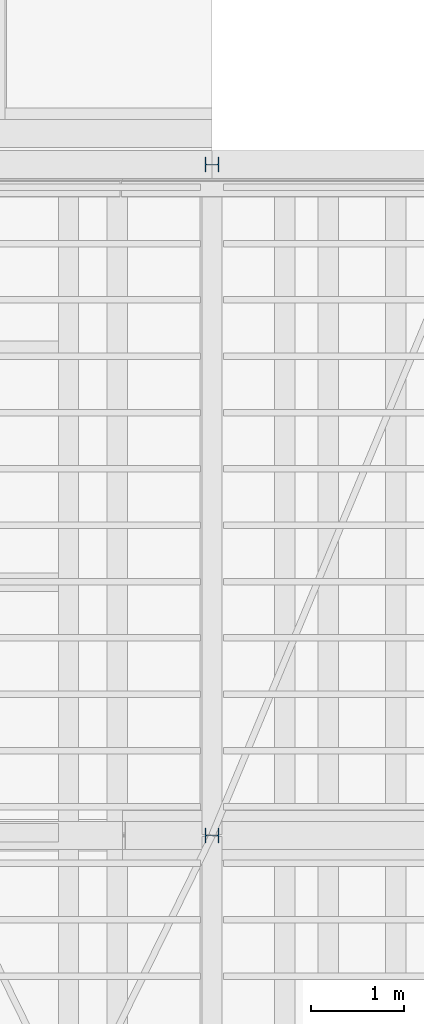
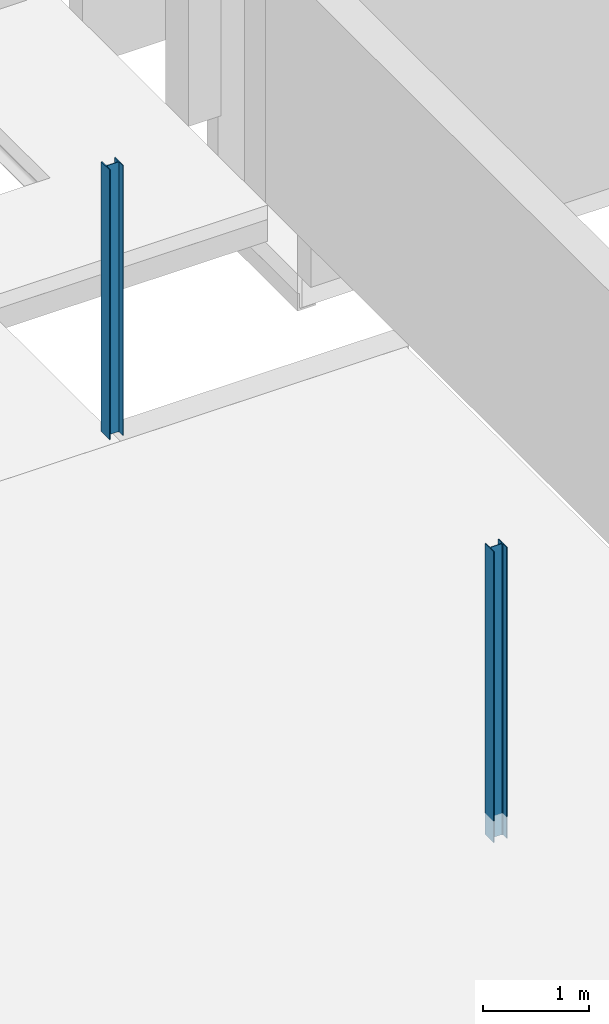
# One storey, part 4 of 50: 2 columns.
"""IFC2X3 building model written with IfcOpenShell, lengths in millimetres."""

from ifc_helpers import new_model, entity, si_unit, converted_unit, derived_unit, direction, frame, frame_2d, origin, place, context, subcontext, project, spatial, i_section, extrude, source, transform, mapped, material, type_object, type_shapes, element, save


model = new_model("IFC2X3")

# Units and contexts
model_context = context("Model", 3, precision=0.01, world=origin(), true_north=direction((6.12303176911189e-17, 1.0)))
body_context = subcontext(model_context, "Body", "Model", "MODEL_VIEW")
ifc_project = project(units=[si_unit("LENGTHUNIT", "METRE", prefix="MILLI"), si_unit("AREAUNIT", "SQUARE_METRE", prefix="MILLI"), si_unit("VOLUMEUNIT", "CUBIC_METRE"), converted_unit("PLANEANGLEUNIT", "DEGREE", entity("IfcRatioMeasure", 0.0174532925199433), si_unit("PLANEANGLEUNIT", "RADIAN"), dimensions=[0, 0, 0, 0, 0, 0, 0]), si_unit("MASSUNIT", "GRAM", prefix="KILO"), derived_unit("MASSDENSITYUNIT", [(si_unit("MASSUNIT", "GRAM", prefix="KILO"), 1), (si_unit("LENGTHUNIT", "METRE"), -3)]), derived_unit("MOMENTOFINERTIAUNIT", [(si_unit("LENGTHUNIT", "METRE"), 4)]), si_unit("TIMEUNIT", "SECOND"), si_unit("FREQUENCYUNIT", "HERTZ"), si_unit("THERMODYNAMICTEMPERATUREUNIT", "DEGREE_CELSIUS"), derived_unit("THERMALTRANSMITTANCEUNIT", [(si_unit("MASSUNIT", "GRAM", prefix="KILO"), 1), (si_unit("THERMODYNAMICTEMPERATUREUNIT", "KELVIN"), -1), (si_unit("TIMEUNIT", "SECOND"), -3)]), derived_unit("VOLUMETRICFLOWRATEUNIT", [(si_unit("LENGTHUNIT", "METRE"), 3), (si_unit("TIMEUNIT", "SECOND"), -1)]), si_unit("ELECTRICCURRENTUNIT", "AMPERE"), si_unit("ELECTRICVOLTAGEUNIT", "VOLT"), si_unit("POWERUNIT", "WATT"), si_unit("FORCEUNIT", "NEWTON", prefix="KILO"), si_unit("ILLUMINANCEUNIT", "LUX"), si_unit("LUMINOUSFLUXUNIT", "LUMEN"), si_unit("LUMINOUSINTENSITYUNIT", "CANDELA"), derived_unit("USERDEFINED", [(si_unit("MASSUNIT", "GRAM", prefix="KILO"), -1), (si_unit("LENGTHUNIT", "METRE"), -2), (si_unit("TIMEUNIT", "SECOND"), 3), (si_unit("LUMINOUSFLUXUNIT", "LUMEN"), 1)]), derived_unit("LINEARVELOCITYUNIT", [(si_unit("LENGTHUNIT", "METRE"), 1), (si_unit("TIMEUNIT", "SECOND"), -1)]), si_unit("PRESSUREUNIT", "PASCAL"), derived_unit("USERDEFINED", [(si_unit("LENGTHUNIT", "METRE"), -2), (si_unit("MASSUNIT", "GRAM", prefix="KILO"), 1), (si_unit("TIMEUNIT", "SECOND"), -2)]), derived_unit("LINEARFORCEUNIT", [(si_unit("MASSUNIT", "GRAM", prefix="KILO"), 1), (si_unit("LENGTHUNIT", "METRE"), 1), (si_unit("TIMEUNIT", "SECOND"), -2), (si_unit("LENGTHUNIT", "METRE"), -1)]), derived_unit("PLANARFORCEUNIT", [(si_unit("MASSUNIT", "GRAM", prefix="KILO"), 1), (si_unit("LENGTHUNIT", "METRE"), 1), (si_unit("TIMEUNIT", "SECOND"), -2), (si_unit("LENGTHUNIT", "METRE"), -2)])], contexts=[model_context])

# Site, building, storey
site_placement = place(None, origin())
site = spatial("IfcSite", under=ifc_project, at=site_placement, Name="Theater aan de Parade", CompositionType="ELEMENT")
building_placement = place(site_placement, origin())
building = spatial("IfcBuilding", under=site, at=building_placement, Name="Theater aan de Parade", CompositionType="ELEMENT")
storey_placement = place(building_placement, frame((0.0, 0.0, 15820.0)))
storey = spatial("IfcBuildingStorey", under=building, at=storey_placement, Name="04 vierde verdieping", CompositionType="ELEMENT", Elevation=15820.0)

# Columns
ifc_material = material(Name="00_PBT_MAT_staal_S355")
column_type_1 = type_object("IfcColumnType", Name="28_PBT_SC_staal_H-profiel:S355_HE160A", PredefinedType="COLUMN", material=ifc_material)
shared_shape_1 = source(origin(), body_context, "Body", "SweptSolid", [
    extrude(i_section(OverallWidth=159.999999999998, OverallDepth=152.0, WebThickness=6.00000000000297, FlangeThickness=8.99999999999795, FilletRadius=14.9999999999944, at=frame_2d((-2.1600499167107e-12, 0.0), x_axis=(1.0, 0.0))), frame((64216.05603639, 35472.499995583, 17140.0), z_axis=(0.0, 0.0, 1.0), x_axis=(0.0, -1.0, 0.0)), (0.0, 0.0, 1.0), 3346.0),
])
type_shapes(column_type_1, [shared_shape_1])
column_1_placement = place(storey_placement, frame((0.0, 0.0, -15820.0)))
element("IfcColumn", 1, at=column_1_placement, inside=storey, type_object=column_type_1, material=ifc_material, Name="28_PBT_SC_staal_H-profiel:S355_HE160A", ObjectType="28_PBT_SC_staal_H-profiel:S355_HE160A", context=body_context, shape_type="MappedRepresentation", body=[
    mapped(shared_shape_1, transform((0.0, 0.0, 0.0), scale=1.0)),
])
column_type_2 = type_object("IfcColumnType", Name="28_PBT_SC_staal_H-profiel:S355_HE160A", PredefinedType="COLUMN", material=ifc_material)
shared_shape_2 = source(origin(), body_context, "Body", "SweptSolid", [
    extrude(i_section(OverallWidth=159.999999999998, OverallDepth=152.0, WebThickness=5.99999999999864, FlangeThickness=8.99999999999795, FilletRadius=14.9999999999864, at=frame_2d((0.0, -8.66151594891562e-12), x_axis=(1.0, 0.0))), frame((64216.0560363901, 42700.0, 17390.0), z_axis=(0.0, 0.0, 1.0), x_axis=(0.0, -1.0, 0.0)), (0.0, 0.0, 1.0), 3100.19996729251),
])
type_shapes(column_type_2, [shared_shape_2])
column_2_placement = place(storey_placement, frame((0.0, 0.0, -15820.0)))
element("IfcColumn", 2, at=column_2_placement, inside=storey, type_object=column_type_2, material=ifc_material, Name="28_PBT_SC_staal_H-profiel:S355_HE160A", ObjectType="28_PBT_SC_staal_H-profiel:S355_HE160A", context=body_context, shape_type="MappedRepresentation", body=[
    mapped(shared_shape_2, transform((0.0, 0.0, 0.0), scale=1.0)),
])

save(model, "model.ifc")
